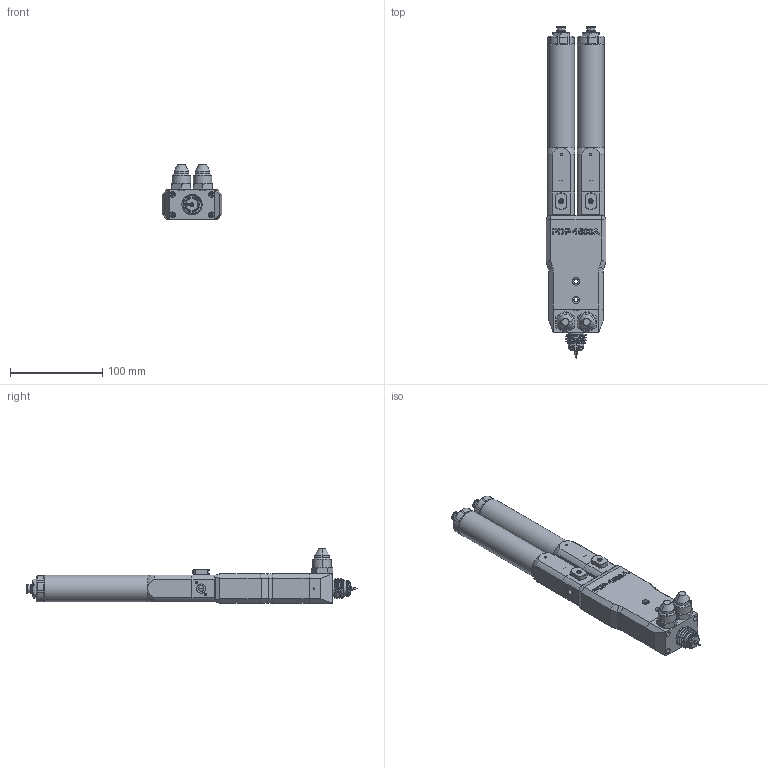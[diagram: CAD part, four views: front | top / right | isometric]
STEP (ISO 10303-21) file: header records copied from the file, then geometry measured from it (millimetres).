
FILE_DESCRIPTION (( 'STEP AP214' ), '1' );
FILE_NAME ('PDPM-1500CB.STEP', '2024-10-11T12:31:59', ( '' ), ( '' ), 'SwSTEP 2.0', 'SolidWorks 2024', '' );
FILE_SCHEMA (( 'AUTOMOTIVE_DESIGN' ));
Length unit declared in the file: millimetre
Products named in the file (1): PDPM-1500CB
Bounding box: 65 x 360 x 59.3 mm (x, y, z)
Volume: 530555.4 mm3; surface area: 127570.9 mm2
Topology: 13 solids, 13 shells, 1581 faces, 3972 edges, 2518 vertices
Faces by surface type: plane 761, cylinder 454, cone 333, bspline 13, torus 12, sphere 8
Full cylindrical faces by diameter (mm): 29 x2
Entity records: 54121 total; most frequent: CARTESIAN_POINT 16112, DIRECTION 7897, ORIENTED_EDGE 7868, EDGE_CURVE 3934, AXIS2_PLACEMENT_3D 2843, VERTEX_POINT 2518, LINE 2211, VECTOR 2211
